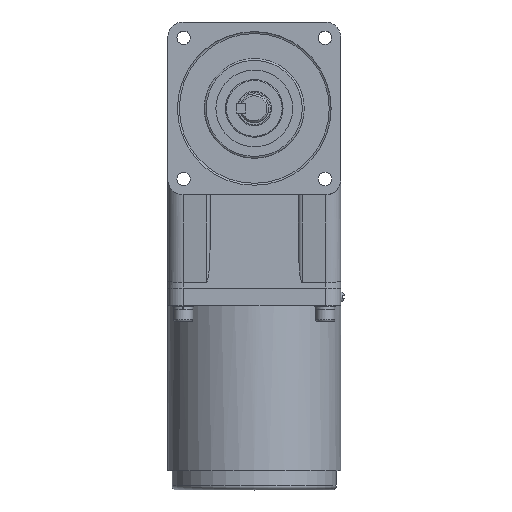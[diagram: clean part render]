
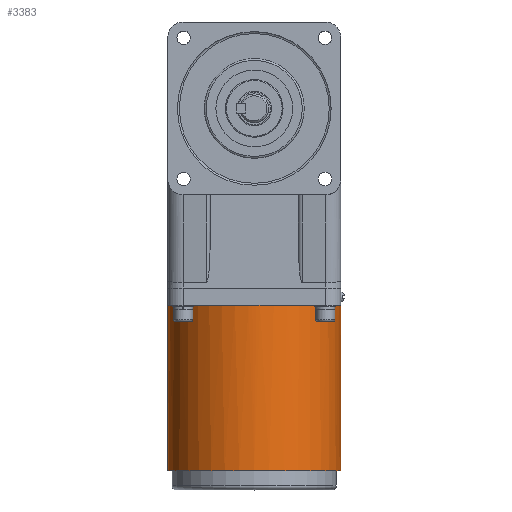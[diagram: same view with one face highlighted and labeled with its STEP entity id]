
A CAD part, top view. The second image highlights one B-rep face of the part: STEP entity #3383.
In plain terms, the highlighted cylindrical face has radius 45.1 mm (diameter 90.2 mm), a full revolution.
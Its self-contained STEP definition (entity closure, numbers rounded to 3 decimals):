
#1186=CYLINDRICAL_SURFACE('',#10206,45.1);
#2241=LINE('',#14162,#2815);
#2243=LINE('',#14166,#2817);
#2257=LINE('',#14214,#2831);
#2258=LINE('',#14219,#2832);
#2815=VECTOR('',#11357,1.);
#2817=VECTOR('',#11359,1.);
#2831=VECTOR('',#11413,1.);
#2832=VECTOR('',#11420,1.);
#3383=ADVANCED_FACE('',(#3967,#3968),#1186,.T.);
#3967=FACE_BOUND('',#4264,.T.);
#3968=FACE_BOUND('',#4265,.T.);
#4264=EDGE_LOOP('',(#5104,#5105,#5106,#5107,#5108,#5109,#5110,#5111,#5112,
#5113,#5114,#5115,#5116,#5117,#5118,#5119));
#4265=EDGE_LOOP('',(#5120));
#5104=ORIENTED_EDGE('',*,*,#8194,.F.);
#5105=ORIENTED_EDGE('',*,*,#8188,.T.);
#5106=ORIENTED_EDGE('',*,*,#8195,.T.);
#5107=ORIENTED_EDGE('',*,*,#8186,.T.);
#5108=ORIENTED_EDGE('',*,*,#8196,.T.);
#5109=ORIENTED_EDGE('',*,*,#8185,.T.);
#5110=ORIENTED_EDGE('',*,*,#8197,.T.);
#5111=ORIENTED_EDGE('',*,*,#8150,.T.);
#5112=ORIENTED_EDGE('',*,*,#8198,.F.);
#5113=ORIENTED_EDGE('',*,*,#8199,.T.);
#5114=ORIENTED_EDGE('',*,*,#8200,.F.);
#5115=ORIENTED_EDGE('',*,*,#8171,.F.);
#5116=ORIENTED_EDGE('',*,*,#8201,.T.);
#5117=ORIENTED_EDGE('',*,*,#8169,.F.);
#5118=ORIENTED_EDGE('',*,*,#8202,.F.);
#5119=ORIENTED_EDGE('',*,*,#8203,.T.);
#5120=ORIENTED_EDGE('',*,*,#8193,.F.);
#7369=VERTEX_POINT('',#14123);
#7370=VERTEX_POINT('',#14125);
#7380=VERTEX_POINT('',#14151);
#7385=VERTEX_POINT('',#14161);
#7386=VERTEX_POINT('',#14163);
#7387=VERTEX_POINT('',#14165);
#7392=VERTEX_POINT('',#14180);
#7393=VERTEX_POINT('',#14182);
#7395=VERTEX_POINT('',#14191);
#7396=VERTEX_POINT('',#14197);
#7397=VERTEX_POINT('',#14201);
#7398=VERTEX_POINT('',#14202);
#7401=VERTEX_POINT('',#14212);
#7402=VERTEX_POINT('',#14215);
#7403=VERTEX_POINT('',#14220);
#7404=VERTEX_POINT('',#14227);
#7405=VERTEX_POINT('',#14231);
#8150=EDGE_CURVE('',#7370,#7369,#9471,.T.);
#8169=EDGE_CURVE('',#7385,#7386,#2241,.T.);
#8171=EDGE_CURVE('',#7387,#7380,#2243,.T.);
#8185=EDGE_CURVE('',#7392,#7395,#9480,.T.);
#8186=EDGE_CURVE('',#7396,#7393,#9481,.T.);
#8188=EDGE_CURVE('',#7397,#7398,#9482,.T.);
#8193=EDGE_CURVE('',#7401,#7401,#9485,.T.);
#8194=EDGE_CURVE('',#7397,#7402,#2257,.T.);
#8195=EDGE_CURVE('',#7398,#7396,#9486,.T.);
#8196=EDGE_CURVE('',#7393,#7392,#9487,.T.);
#8197=EDGE_CURVE('',#7395,#7370,#9488,.T.);
#8198=EDGE_CURVE('',#7403,#7369,#2258,.T.);
#8199=EDGE_CURVE('',#7403,#7404,#9299,.T.);
#8200=EDGE_CURVE('',#7380,#7404,#9489,.T.);
#8201=EDGE_CURVE('',#7387,#7386,#9490,.T.);
#8202=EDGE_CURVE('',#7405,#7385,#9491,.T.);
#8203=EDGE_CURVE('',#7405,#7402,#9300,.T.);
#9299=B_SPLINE_CURVE_WITH_KNOTS('',3,(#14221,#14222,#14223,#14224,#14225,
#14226),.UNSPECIFIED.,.F.,.F.,(4,2,4),(0.,0.5,1.),.UNSPECIFIED.);
#9300=B_SPLINE_CURVE_WITH_KNOTS('',3,(#14232,#14233,#14234,#14235,#14236,
#14237),.UNSPECIFIED.,.F.,.F.,(4,2,4),(0.,0.5,1.),.UNSPECIFIED.);
#9471=CIRCLE('',#10171,45.1);
#9480=CIRCLE('',#10189,45.1);
#9481=CIRCLE('',#10191,45.1);
#9482=CIRCLE('',#10193,45.1);
#9485=CIRCLE('',#10198,45.1);
#9486=CIRCLE('',#10200,45.1);
#9487=CIRCLE('',#10201,45.1);
#9488=CIRCLE('',#10202,45.1);
#9489=CIRCLE('',#10203,45.1);
#9490=CIRCLE('',#10204,45.1);
#9491=CIRCLE('',#10205,45.1);
#10171=AXIS2_PLACEMENT_3D('',#14124,#11326,#11327);
#10189=AXIS2_PLACEMENT_3D('',#14194,#11388,#11389);
#10191=AXIS2_PLACEMENT_3D('',#14196,#11392,#11393);
#10193=AXIS2_PLACEMENT_3D('',#14200,#11397,#11398);
#10198=AXIS2_PLACEMENT_3D('',#14211,#11409,#11410);
#10200=AXIS2_PLACEMENT_3D('',#14216,#11414,#11415);
#10201=AXIS2_PLACEMENT_3D('',#14217,#11416,#11417);
#10202=AXIS2_PLACEMENT_3D('',#14218,#11418,#11419);
#10203=AXIS2_PLACEMENT_3D('',#14228,#11421,#11422);
#10204=AXIS2_PLACEMENT_3D('',#14229,#11423,#11424);
#10205=AXIS2_PLACEMENT_3D('',#14230,#11425,#11426);
#10206=AXIS2_PLACEMENT_3D('',#14238,#11427,#11428);
#11326=DIRECTION('',(0.,-1.,0.));
#11327=DIRECTION('',(0.,0.,-1.));
#11357=DIRECTION('',(0.,1.,0.));
#11359=DIRECTION('',(0.,-1.,0.));
#11388=DIRECTION('',(0.,-1.,0.));
#11389=DIRECTION('',(0.,0.,-1.));
#11392=DIRECTION('',(0.,-1.,0.));
#11393=DIRECTION('',(0.,0.,-1.));
#11397=DIRECTION('',(0.,-1.,0.));
#11398=DIRECTION('',(0.,0.,-1.));
#11409=DIRECTION('',(0.,-1.,0.));
#11410=DIRECTION('',(0.,0.,-1.));
#11413=DIRECTION('',(0.,-1.,0.));
#11414=DIRECTION('',(0.,-1.,0.));
#11415=DIRECTION('',(0.,0.,-1.));
#11416=DIRECTION('',(0.,-1.,0.));
#11417=DIRECTION('',(0.,0.,-1.));
#11418=DIRECTION('',(0.,-1.,0.));
#11419=DIRECTION('',(0.,0.,-1.));
#11420=DIRECTION('',(0.,1.,0.));
#11421=DIRECTION('',(0.,1.,0.));
#11422=DIRECTION('',(0.,0.,-1.));
#11423=DIRECTION('',(0.,-1.,0.));
#11424=DIRECTION('',(0.,0.,-1.));
#11425=DIRECTION('',(0.,1.,0.));
#11426=DIRECTION('',(0.,0.,-1.));
#11427=DIRECTION('',(0.,-1.,0.));
#11428=DIRECTION('',(0.,0.,-1.));
#14123=CARTESIAN_POINT('',(-26.5,-102.5,-88.493));
#14124=CARTESIAN_POINT('',(0.,-102.5,-52.));
#14125=CARTESIAN_POINT('',(-45.,-102.5,-55.002));
#14151=CARTESIAN_POINT('',(-3.002,-154.5,-97.));
#14161=CARTESIAN_POINT('',(3.002,-154.5,-97.));
#14162=CARTESIAN_POINT('',(3.002,-196.5,-97.));
#14163=CARTESIAN_POINT('',(3.002,-102.5,-97.));
#14165=CARTESIAN_POINT('',(-3.002,-102.5,-97.));
#14166=CARTESIAN_POINT('',(-3.002,-196.5,-97.));
#14180=CARTESIAN_POINT('',(-3.002,-102.5,-7.));
#14182=CARTESIAN_POINT('',(3.002,-102.5,-7.));
#14191=CARTESIAN_POINT('',(-45.,-102.5,-48.998));
#14194=CARTESIAN_POINT('',(0.,-102.5,-52.));
#14196=CARTESIAN_POINT('',(0.,-102.5,-52.));
#14197=CARTESIAN_POINT('',(45.,-102.5,-48.998));
#14200=CARTESIAN_POINT('',(0.,-102.5,-52.));
#14201=CARTESIAN_POINT('',(26.5,-102.5,-88.493));
#14202=CARTESIAN_POINT('',(45.,-102.5,-55.002));
#14211=CARTESIAN_POINT('',(0.,-188.5,-52.));
#14212=CARTESIAN_POINT('',(0.,-188.5,-97.1));
#14214=CARTESIAN_POINT('',(26.5,-196.5,-88.493));
#14215=CARTESIAN_POINT('',(26.5,-153.5,-88.493));
#14216=CARTESIAN_POINT('',(0.,-102.5,-52.));
#14217=CARTESIAN_POINT('',(0.,-102.5,-52.));
#14218=CARTESIAN_POINT('',(0.,-102.5,-52.));
#14219=CARTESIAN_POINT('',(-26.5,-196.5,-88.493));
#14220=CARTESIAN_POINT('',(-26.5,-153.5,-88.493));
#14221=CARTESIAN_POINT('',(-26.5,-153.5,-88.493));
#14222=CARTESIAN_POINT('',(-26.5,-153.783,-88.494));
#14223=CARTESIAN_POINT('',(-26.363,-154.067,-88.593));
#14224=CARTESIAN_POINT('',(-25.982,-154.413,-88.865));
#14225=CARTESIAN_POINT('',(-25.758,-154.5,-89.022));
#14226=CARTESIAN_POINT('',(-25.5,-154.5,-89.199));
#14227=CARTESIAN_POINT('',(-25.5,-154.5,-89.199));
#14228=CARTESIAN_POINT('',(0.,-154.5,-52.));
#14229=CARTESIAN_POINT('',(0.,-102.5,-52.));
#14230=CARTESIAN_POINT('',(0.,-154.5,-52.));
#14231=CARTESIAN_POINT('',(25.5,-154.5,-89.199));
#14232=CARTESIAN_POINT('',(25.5,-154.5,-89.199));
#14233=CARTESIAN_POINT('',(25.757,-154.5,-89.023));
#14234=CARTESIAN_POINT('',(25.951,-154.44,-88.886));
#14235=CARTESIAN_POINT('',(26.391,-154.043,-88.573));
#14236=CARTESIAN_POINT('',(26.5,-153.796,-88.494));
#14237=CARTESIAN_POINT('',(26.5,-153.5,-88.493));
#14238=CARTESIAN_POINT('',(0.,-196.5,-52.));
